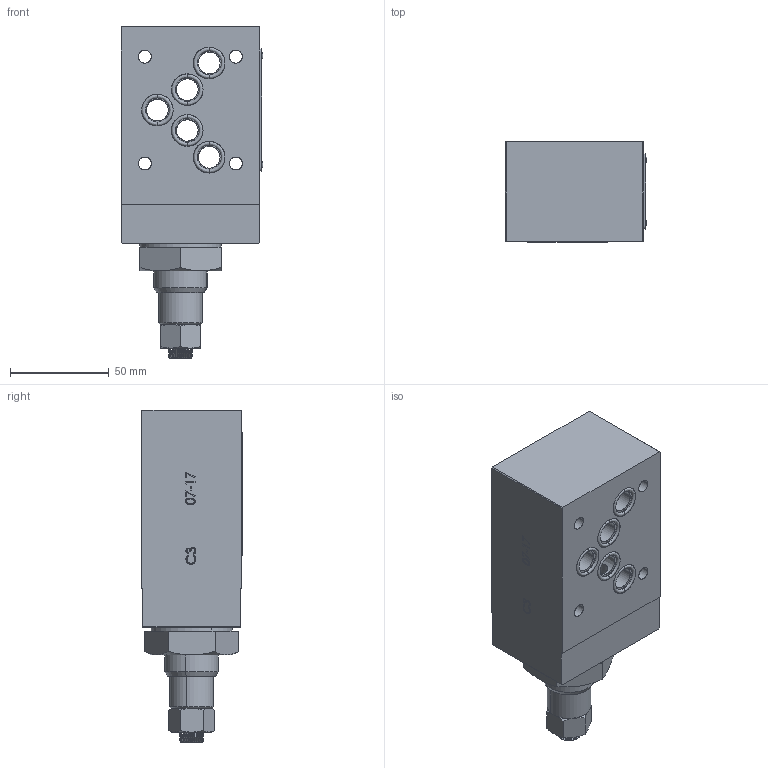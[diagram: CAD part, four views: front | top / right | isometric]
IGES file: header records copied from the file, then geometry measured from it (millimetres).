
Start section: SolidWorks IGES file using analytic representation for surfaces
Global section: file name: C:\Users\pc-te25\Desktop\358-5-B-05.IGS; native system: SolidWorks 2018; preprocessor: SolidWorks 2018; author: pc-te25; date: 191204.094913; units: millimetre
Bounding box: 71.66 x 50.58 x 167.8 mm (x, y, z)
Surface area: 54635.3 mm2 (no closed solid volume)
Topology: 0 solids, 0 shells, 643 faces, 12856 edges, 12856 vertices
Faces by surface type: bspline 474, revolution 169
